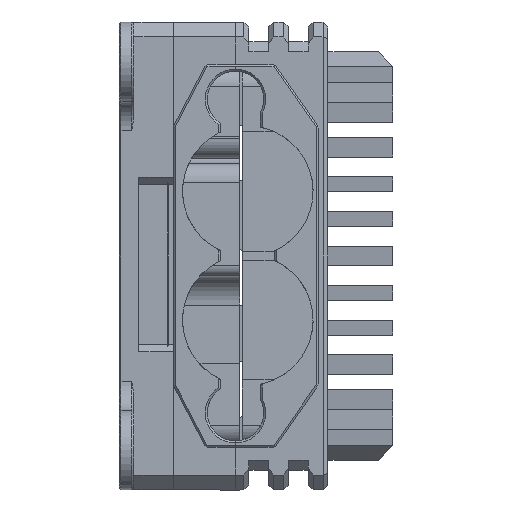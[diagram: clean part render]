
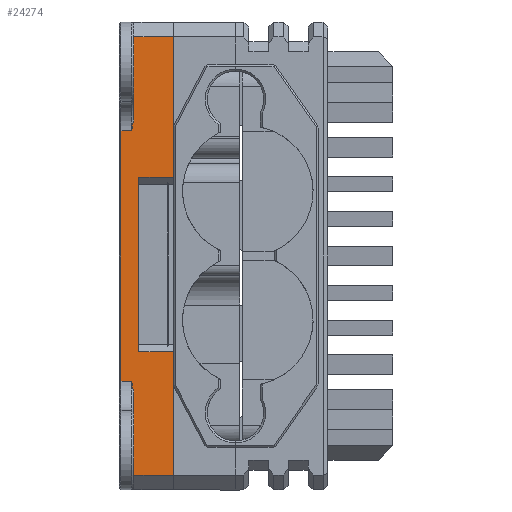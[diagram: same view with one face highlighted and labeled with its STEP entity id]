
A CAD part, left-side view. The second image highlights one B-rep face of the part: STEP entity #24274.
In plain terms, the highlighted planar face has unit normal (-1, 0, 0).
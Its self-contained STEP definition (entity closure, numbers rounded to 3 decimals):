
#108=(
BOUNDED_CURVE()
B_SPLINE_CURVE(2,(#38782,#38783,#38784),.UNSPECIFIED.,.F.,.F.)
B_SPLINE_CURVE_WITH_KNOTS((3,3),(0.,0.114),.UNSPECIFIED.)
CURVE()
GEOMETRIC_REPRESENTATION_ITEM()
RATIONAL_B_SPLINE_CURVE((1.,1.017,1.))
REPRESENTATION_ITEM('')
);
#109=(
BOUNDED_CURVE()
B_SPLINE_CURVE(2,(#38833,#38834,#38835),.UNSPECIFIED.,.F.,.F.)
B_SPLINE_CURVE_WITH_KNOTS((3,3),(0.114,0.227),
 .UNSPECIFIED.)
CURVE()
GEOMETRIC_REPRESENTATION_ITEM()
RATIONAL_B_SPLINE_CURVE((1.,1.017,1.))
REPRESENTATION_ITEM('')
);
#1652=FACE_OUTER_BOUND('',#3034,.T.);
#3034=EDGE_LOOP('',(#21458,#21459,#21460,#21461,#21462,#21463,#21464,#21465,
#21466,#21467,#21468,#21469,#21470,#21471));
#5895=LINE('',#38792,#8904);
#5912=LINE('',#38841,#8921);
#5982=LINE('',#39041,#8991);
#5995=LINE('',#39078,#9004);
#5996=LINE('',#39080,#9005);
#5997=LINE('',#39082,#9006);
#5998=LINE('',#39084,#9007);
#5999=LINE('',#39086,#9008);
#6000=LINE('',#39088,#9009);
#6001=LINE('',#39090,#9010);
#6002=LINE('',#39092,#9011);
#6003=LINE('',#39093,#9012);
#8904=VECTOR('',#31691,10.);
#8921=VECTOR('',#31734,10.);
#8991=VECTOR('',#31922,10.);
#9004=VECTOR('',#31965,10.);
#9005=VECTOR('',#31966,10.);
#9006=VECTOR('',#31967,10.);
#9007=VECTOR('',#31968,10.);
#9008=VECTOR('',#31969,10.);
#9009=VECTOR('',#31970,10.);
#9010=VECTOR('',#31971,10.);
#9011=VECTOR('',#31972,10.);
#9012=VECTOR('',#31973,10.);
#11559=VERTEX_POINT('',#38780);
#11560=VERTEX_POINT('',#38781);
#11562=VERTEX_POINT('',#38790);
#11576=VERTEX_POINT('',#38831);
#11577=VERTEX_POINT('',#38832);
#11578=VERTEX_POINT('',#38839);
#11641=VERTEX_POINT('',#39032);
#11653=VERTEX_POINT('',#39079);
#11654=VERTEX_POINT('',#39081);
#11655=VERTEX_POINT('',#39083);
#11656=VERTEX_POINT('',#39085);
#11657=VERTEX_POINT('',#39087);
#11658=VERTEX_POINT('',#39089);
#11659=VERTEX_POINT('',#39091);
#14838=EDGE_CURVE('',#11559,#11560,#108,.F.);
#14843=EDGE_CURVE('',#11562,#11559,#5895,.T.);
#14862=EDGE_CURVE('',#11576,#11577,#109,.F.);
#14866=EDGE_CURVE('',#11576,#11578,#5912,.T.);
#14964=EDGE_CURVE('',#11641,#11562,#5982,.T.);
#14983=EDGE_CURVE('',#11577,#11641,#5995,.T.);
#14984=EDGE_CURVE('',#11653,#11578,#5996,.T.);
#14985=EDGE_CURVE('',#11653,#11654,#5997,.T.);
#14986=EDGE_CURVE('',#11655,#11654,#5998,.T.);
#14987=EDGE_CURVE('',#11655,#11656,#5999,.T.);
#14988=EDGE_CURVE('',#11657,#11656,#6000,.T.);
#14989=EDGE_CURVE('',#11657,#11658,#6001,.T.);
#14990=EDGE_CURVE('',#11659,#11658,#6002,.T.);
#14991=EDGE_CURVE('',#11659,#11560,#6003,.T.);
#21458=ORIENTED_EDGE('',*,*,#14964,.F.);
#21459=ORIENTED_EDGE('',*,*,#14983,.F.);
#21460=ORIENTED_EDGE('',*,*,#14862,.F.);
#21461=ORIENTED_EDGE('',*,*,#14866,.T.);
#21462=ORIENTED_EDGE('',*,*,#14984,.F.);
#21463=ORIENTED_EDGE('',*,*,#14985,.T.);
#21464=ORIENTED_EDGE('',*,*,#14986,.F.);
#21465=ORIENTED_EDGE('',*,*,#14987,.T.);
#21466=ORIENTED_EDGE('',*,*,#14988,.F.);
#21467=ORIENTED_EDGE('',*,*,#14989,.T.);
#21468=ORIENTED_EDGE('',*,*,#14990,.F.);
#21469=ORIENTED_EDGE('',*,*,#14991,.T.);
#21470=ORIENTED_EDGE('',*,*,#14838,.F.);
#21471=ORIENTED_EDGE('',*,*,#14843,.F.);
#23033=PLANE('',#25922);
#24274=ADVANCED_FACE('',(#1652),#23033,.T.);
#25922=AXIS2_PLACEMENT_3D('',#39077,#31963,#31964);
#31691=DIRECTION('',(0.,-1.,0.));
#31734=DIRECTION('',(0.,0.,-1.));
#31922=DIRECTION('',(0.,0.,1.));
#31963=DIRECTION('center_axis',(-1.,0.,0.));
#31964=DIRECTION('ref_axis',(0.,0.,1.));
#31965=DIRECTION('',(0.,1.,0.));
#31966=DIRECTION('',(0.,1.,0.));
#31967=DIRECTION('',(0.,0.,1.));
#31968=DIRECTION('',(0.,-1.,0.));
#31969=DIRECTION('',(0.,0.,1.));
#31970=DIRECTION('',(0.,1.,0.));
#31971=DIRECTION('',(0.,0.,1.));
#31972=DIRECTION('',(0.,-1.,0.));
#31973=DIRECTION('',(0.,0.,-1.));
#38780=CARTESIAN_POINT('',(-12.15,13.99,-6.35));
#38781=CARTESIAN_POINT('',(-12.15,13.79,-5.236));
#38782=CARTESIAN_POINT('Ctrl Pts',(-12.15,13.79,-5.236));
#38783=CARTESIAN_POINT('Ctrl Pts',(-12.15,13.99,-5.811));
#38784=CARTESIAN_POINT('Ctrl Pts',(-12.15,13.99,-6.35));
#38790=CARTESIAN_POINT('',(-12.15,15.09,-6.35));
#38792=CARTESIAN_POINT('',(-12.15,12.54,-6.35));
#38831=CARTESIAN_POINT('',(-12.15,13.79,-32.764));
#38832=CARTESIAN_POINT('',(-12.15,13.99,-31.65));
#38833=CARTESIAN_POINT('Ctrl Pts',(-12.15,13.99,-31.65));
#38834=CARTESIAN_POINT('Ctrl Pts',(-12.15,13.99,-32.189));
#38835=CARTESIAN_POINT('Ctrl Pts',(-12.15,13.79,-32.764));
#38839=CARTESIAN_POINT('',(-12.15,13.79,-41.15));
#38841=CARTESIAN_POINT('',(-12.15,13.79,-40.65));
#39032=CARTESIAN_POINT('',(-12.15,15.09,-31.65));
#39041=CARTESIAN_POINT('',(-12.15,15.09,-30.825));
#39077=CARTESIAN_POINT('Origin',(-12.15,9.79,-42.65));
#39078=CARTESIAN_POINT('',(-12.15,12.54,-31.65));
#39079=CARTESIAN_POINT('',(-12.15,9.79,-41.15));
#39080=CARTESIAN_POINT('',(-12.15,9.79,-41.15));
#39081=CARTESIAN_POINT('',(-12.15,9.79,-28.7));
#39082=CARTESIAN_POINT('',(-12.15,9.79,-40.65));
#39083=CARTESIAN_POINT('',(-12.15,13.29,-28.7));
#39084=CARTESIAN_POINT('',(-12.15,9.79,-28.7));
#39085=CARTESIAN_POINT('',(-12.15,13.29,-11.05));
#39086=CARTESIAN_POINT('',(-12.15,13.29,-35.3));
#39087=CARTESIAN_POINT('',(-12.15,9.79,-11.05));
#39088=CARTESIAN_POINT('',(-12.15,11.54,-11.05));
#39089=CARTESIAN_POINT('',(-12.15,9.79,3.15));
#39090=CARTESIAN_POINT('',(-12.15,9.79,-40.65));
#39091=CARTESIAN_POINT('',(-12.15,13.79,3.15));
#39092=CARTESIAN_POINT('',(-12.15,9.79,3.15));
#39093=CARTESIAN_POINT('',(-12.15,13.79,-21.));
